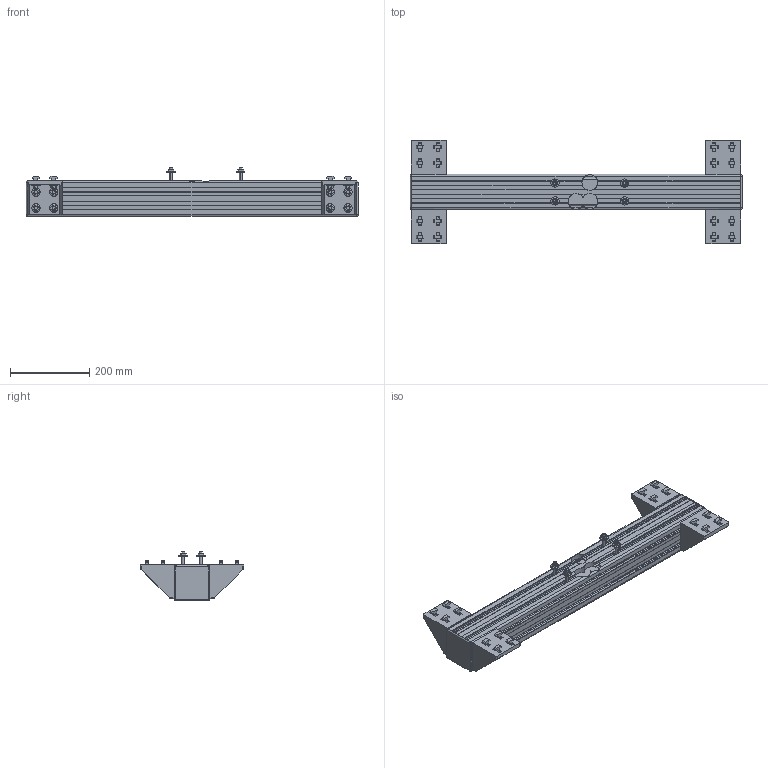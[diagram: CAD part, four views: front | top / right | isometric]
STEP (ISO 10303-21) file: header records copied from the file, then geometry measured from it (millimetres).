
FILE_DESCRIPTION (( 'STEP AP203' ), '1' );
FILE_NAME ('Asutec_75000085.STEP', '2021-11-16T12:44:53', ( '' ), ( '' ), 'SwSTEP 2.0', 'SolidWorks 2020', '' );
FILE_SCHEMA (( 'CONFIG_CONTROL_DESIGN' ));
Length unit declared in the file: millimetre
Products named in the file (1): Asutec_75000085
Bounding box: 840.5 x 262 x 124 mm (x, y, z)
Volume: 5895108 mm3; surface area: 980890.5 mm2
Topology: 11 solids, 11 shells, 1682 faces, 4588 edges, 2968 vertices
Faces by surface type: plane 1253, cylinder 305, cone 108, sphere 8, bspline 8
Entity records: 55509 total; most frequent: CARTESIAN_POINT 13278, ORIENTED_EDGE 9176, DIRECTION 8222, EDGE_CURVE 4588, VECTOR 3226, LINE 3226, VERTEX_POINT 2968, AXIS2_PLACEMENT_3D 2498
